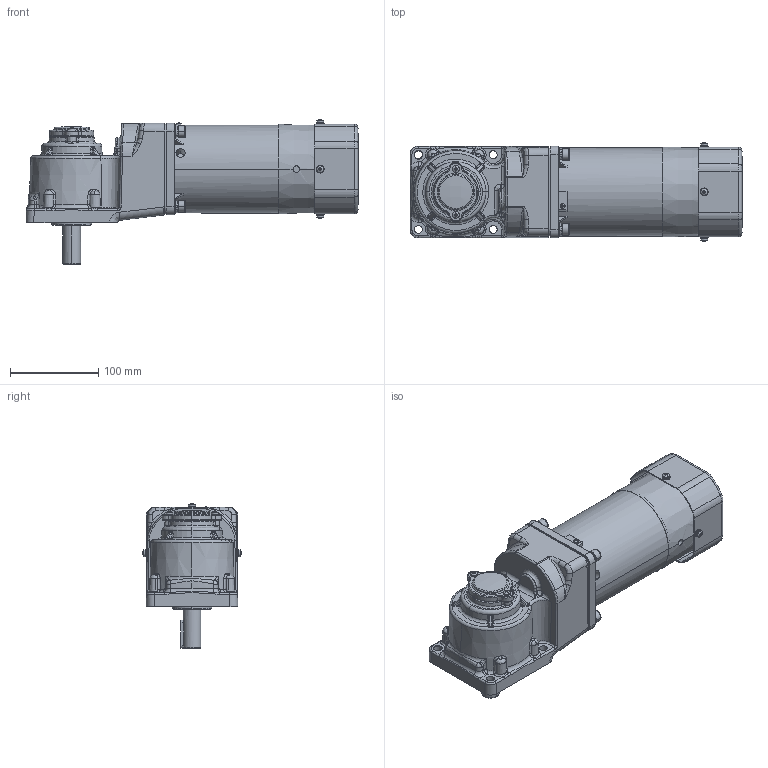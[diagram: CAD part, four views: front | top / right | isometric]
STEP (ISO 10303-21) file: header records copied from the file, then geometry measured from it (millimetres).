
FILE_DESCRIPTION (( 'STEP AP203' ), '1' );
FILE_NAME ('6RK120GU-CMF(6GU3RT-180RT)ÐÂ.STEP', '2023-07-07T03:10:50', ( 'Windows User' ), ( 'P R C' ), 'SwSTEP 2.0', 'SolidWorks 2019', '' );
FILE_SCHEMA (( 'CONFIG_CONTROL_DESIGN' ));
Length unit declared in the file: millimetre
Products named in the file (5): ^6RK120GU-CMF(6GU3RT-180RT)陔(2)_6RK120GU-CMF(6GU3RT-180RT)陔; 100RT____________________^6RK120GU-CMF(6GU3RT-180RT)陔(2)_6RK120GU-CMF(6GU3RT-180RT)陔; 6RK120GU-CMF(6GU3RT-180RT)陔; ^_6RK120GU-CMF(6GU3RT-180RT)陔(2)_6RK120GU-CMF(6GU3RT-180RT)陔; 6RK120GU-CMF(6GU3RT-180RT)陔(2)^6RK120GU-CMF(6GU3RT-180RT)陔
Assembly tree (4 placements, depth 4):
  6RK120GU-CMF(6GU3RT-180RT)陔
    6RK120GU-CMF(6GU3RT-180RT)陔(2)^6RK120GU-CMF(6GU3RT-180RT)陔
      ^6RK120GU-CMF(6GU3RT-180RT)陔(2)_6RK120GU-CMF(6GU3RT-180RT)陔
        ^_6RK120GU-CMF(6GU3RT-180RT)陔(2)_6RK120GU-CMF(6GU3RT-180RT)陔
      100RT____________________^6RK120GU-CMF(6GU3RT-180RT)陔(2)_6RK120GU-CMF(6GU3RT-180RT)陔
Bounding box: 376.98 x 111.91 x 163.96 mm (x, y, z)
Volume: 2811321.5 mm3; surface area: 306440.5 mm2
Topology: 34 solids, 46 shells, 2071 faces, 5006 edges, 3041 vertices
Faces by surface type: plane 657, cylinder 545, cone 351, bspline 344, torus 118, sphere 56
Entity records: 80074 total; most frequent: CARTESIAN_POINT 34447, ORIENTED_EDGE 9904, DIRECTION 8880, EDGE_CURVE 4952, AXIS2_PLACEMENT_3D 3528, VERTEX_POINT 3037, EDGE_LOOP 2207, ADVANCED_FACE 2071
